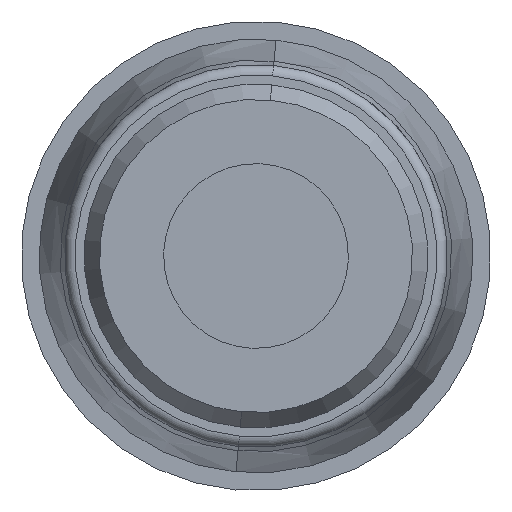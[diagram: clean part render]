
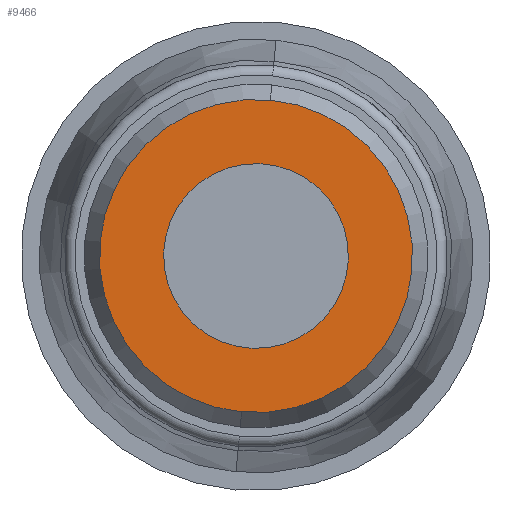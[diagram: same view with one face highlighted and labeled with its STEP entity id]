
A CAD part, left-side view. The second image highlights one B-rep face of the part: STEP entity #9466.
In plain terms, the highlighted planar face has unit normal (-1, 0, 0).
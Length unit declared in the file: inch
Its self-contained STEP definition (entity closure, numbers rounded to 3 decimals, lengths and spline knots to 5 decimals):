
#6319 = DIRECTION ( 'NONE',  ( 0., 0.092, -0.996 ) ) ;
#6320 = DIRECTION ( 'NONE',  ( 1., 0., 0. ) ) ;
#6321 = CARTESIAN_POINT ( 'NONE',  ( 4.30952, 2.58463, -0.27863 ) ) ;
#6382 = AXIS2_PLACEMENT_3D ( 'NONE', #6321, #6320, #6319 ) ;
#6396 = CIRCLE ( 'NONE', #6382, 0.2 ) ;
#9197 = EDGE_CURVE ( 'NONE', #12917, #12913, #9997, .T. ) ;
#9212 = EDGE_LOOP ( 'NONE', ( #9217, #9498 ) ) ;
#9217 = ORIENTED_EDGE ( 'NONE', *, *, #12737, .F. ) ;
#9466 = ADVANCED_FACE ( 'NONE', ( #15698 ), #15746, .T. ) ;
#9498 = ORIENTED_EDGE ( 'NONE', *, *, #9197, .F. ) ;
#9994 = DIRECTION ( 'NONE',  ( 0., 0.092, -0.996 ) ) ;
#9995 = DIRECTION ( 'NONE',  ( 1., 0., 0. ) ) ;
#9996 = CARTESIAN_POINT ( 'NONE',  ( 4.30952, 2.58463, -0.27863 ) ) ;
#9997 = CIRCLE ( 'NONE', #10085, 0.2 ) ;
#10085 = AXIS2_PLACEMENT_3D ( 'NONE', #9996, #9995, #9994 ) ;
#11570 = CARTESIAN_POINT ( 'NONE',  ( 4.30952, 2.56622, -0.07948 ) ) ;
#11573 = CARTESIAN_POINT ( 'NONE',  ( 4.30952, 2.60305, -0.47778 ) ) ;
#12737 = EDGE_CURVE ( 'NONE', #12913, #12917, #6396, .T. ) ;
#12913 = VERTEX_POINT ( 'NONE', #11573 ) ;
#12917 = VERTEX_POINT ( 'NONE', #11570 ) ;
#15622 = DIRECTION ( 'NONE',  ( 0., -0.092, 0.996 ) ) ;
#15623 = DIRECTION ( 'NONE',  ( -1., 0., 0. ) ) ;
#15624 = CARTESIAN_POINT ( 'NONE',  ( 4.30952, 2.58463, -0.27863 ) ) ;
#15698 = FACE_OUTER_BOUND ( 'NONE', #9212, .T. ) ;
#15746 = PLANE ( 'NONE',  #15780 ) ;
#15780 = AXIS2_PLACEMENT_3D ( 'NONE', #15624, #15623, #15622 ) ;
